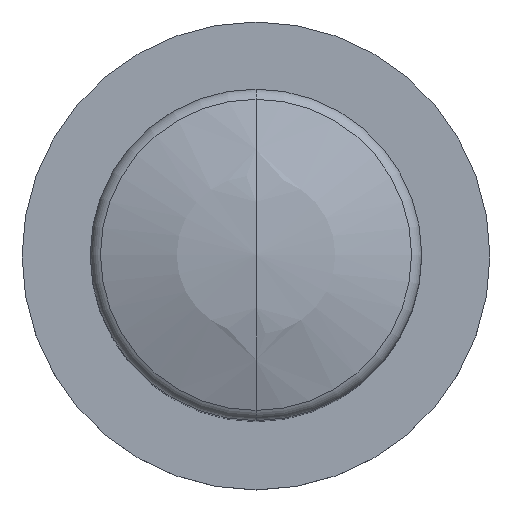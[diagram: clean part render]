
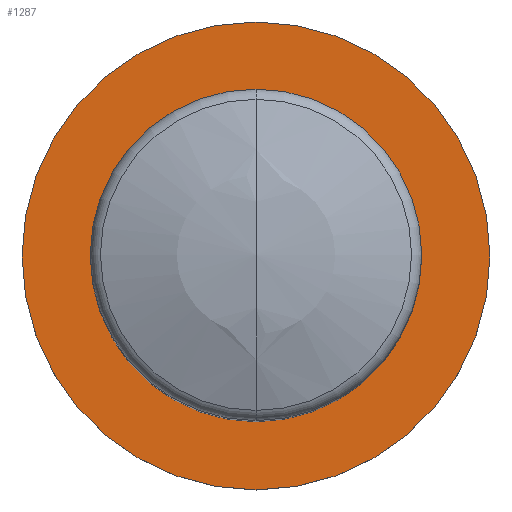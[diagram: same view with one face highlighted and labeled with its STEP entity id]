
A CAD part, top view. The second image highlights one B-rep face of the part: STEP entity #1287.
In plain terms, the highlighted planar face has unit normal (0, 0, 1).
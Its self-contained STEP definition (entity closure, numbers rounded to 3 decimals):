
#4 = FACE_OUTER_BOUND ( 'NONE', #1152, .T. ) ;
#138 = AXIS2_PLACEMENT_3D ( 'NONE', #546, #713, #1022 ) ;
#191 = PLANE ( 'NONE',  #316 ) ;
#267 = CARTESIAN_POINT ( 'NONE',  ( 0., -3.5, 12.5 ) ) ;
#287 = CIRCLE ( 'NONE', #914, 3.5 ) ;
#316 = AXIS2_PLACEMENT_3D ( 'NONE', #1370, #508, #737 ) ;
#434 = EDGE_CURVE ( 'NONE', #550, #901, #620, .T. ) ;
#508 = DIRECTION ( 'NONE',  ( 0., 0., -1. ) ) ;
#546 = CARTESIAN_POINT ( 'NONE',  ( 0., 0., 12.5 ) ) ;
#550 = VERTEX_POINT ( 'NONE', #267 ) ;
#620 = CIRCLE ( 'NONE', #138, 3.5 ) ;
#699 = DIRECTION ( 'NONE',  ( 0., -1., 0. ) ) ;
#710 = CARTESIAN_POINT ( 'NONE',  ( 0., 3.5, 12.5 ) ) ;
#713 = DIRECTION ( 'NONE',  ( 0., 0., 1. ) ) ;
#737 = DIRECTION ( 'NONE',  ( -1., 0., 0. ) ) ;
#815 = EDGE_CURVE ( 'NONE', #901, #550, #287, .T. ) ;
#901 = VERTEX_POINT ( 'NONE', #710 ) ;
#914 = AXIS2_PLACEMENT_3D ( 'NONE', #1034, #917, #699 ) ;
#917 = DIRECTION ( 'NONE',  ( 0., 0., 1. ) ) ;
#958 = ORIENTED_EDGE ( 'NONE', *, *, #434, .T. ) ;
#1022 = DIRECTION ( 'NONE',  ( 0., -1., 0. ) ) ;
#1034 = CARTESIAN_POINT ( 'NONE',  ( 0., 0., 12.5 ) ) ;
#1049 = ORIENTED_EDGE ( 'NONE', *, *, #815, .T. ) ;
#1152 = EDGE_LOOP ( 'NONE', ( #958, #1049 ) ) ;
#1287 = ADVANCED_FACE ( 'NONE', ( #4 ), #191, .F. ) ;
#1370 = CARTESIAN_POINT ( 'NONE',  ( 0., 0., 12.5 ) ) ;
